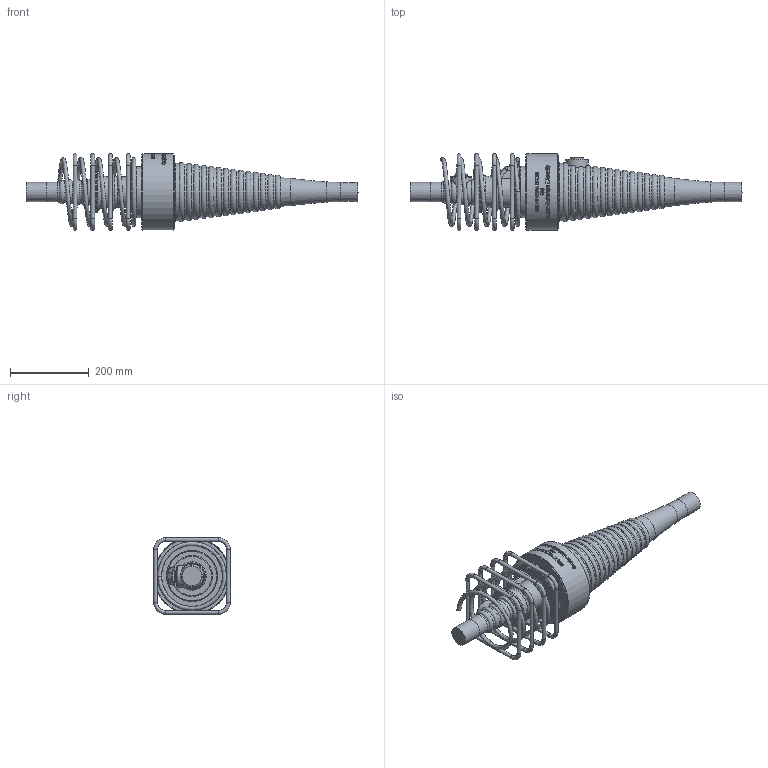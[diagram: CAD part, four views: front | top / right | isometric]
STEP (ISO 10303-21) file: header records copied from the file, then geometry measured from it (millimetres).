
FILE_DESCRIPTION(/* description */ (''),/* implementation_level */ '2;1');
FILE_NAME(/* name */ 'BBR VT CONA CMI BT 406_Coupler K Assembly_CS-34,28.stp',/* time_stamp */ '2025-04-29T15:34:20+02:00',/* author */ ('tk'),/* organization */ (''),/* preprocessor_version */ 'ST-DEVELOPER v20',/* originating_system */ 'Autodesk Inventor 2024',/* authorisation */ '');
FILE_SCHEMA (('AUTOMOTIVE_DESIGN { 1 0 10303 214 3 1 1 }'));
Products named in the file (1): BBR VT CONA CMI BT 406_Coupler K Assembly_CS-34,28
Bounding box: 845.07 x 195 x 195.1 mm (x, y, z)
Volume: 7665429.5 mm3; surface area: 543775.5 mm2
Topology: 7 solids, 7 shells, 919 faces, 2403 edges, 1554 vertices
Faces by surface type: bspline 421, plane 261, cylinder 99, torus 96, cone 30, sphere 12
Full cylindrical faces by diameter (mm): 10 x16, 32 x1, 34.158 x1, 49 x1, 55 x1, 57 x1, 104 x2, 130 x1, 192 x1, 195 x1
Entity records: 41064 total; most frequent: CARTESIAN_POINT 20483, ORIENTED_EDGE 4794, DIRECTION 3181, EDGE_CURVE 2397, VERTEX_POINT 1554, AXIS2_PLACEMENT_3D 1135, EDGE_LOOP 989, FACE_OUTER_BOUND 919
